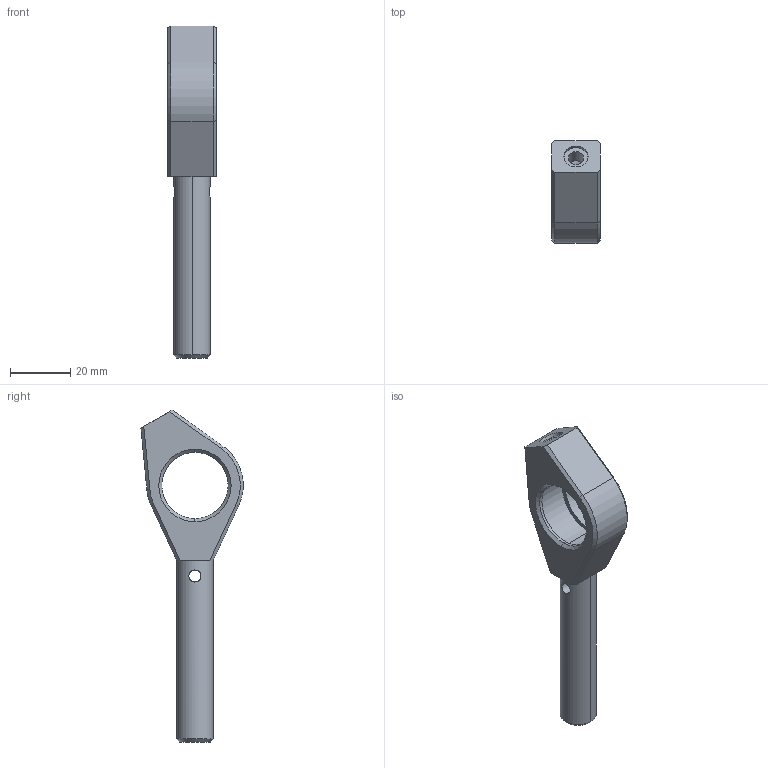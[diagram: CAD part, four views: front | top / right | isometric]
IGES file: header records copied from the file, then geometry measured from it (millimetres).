
Global section: file name: No Iges File Name specified; native system: AutoDesk Inventor R12.0; preprocessor: AutoDesk Inventor Iges Exporter R12.0; author: No Author specified; organization: No Organization specified; date: 20100803.112352; units: millimetre
Bounding box: 16 x 33.84 x 110 mm (x, y, z)
Volume: 17725.6 mm3; surface area: 7643.6 mm2
Topology: 1 solids, 3 shells, 70 faces, 165 edges, 101 vertices
Faces by surface type: plane 31, bspline 21, cone 6, cylinder 6, revolution 6
